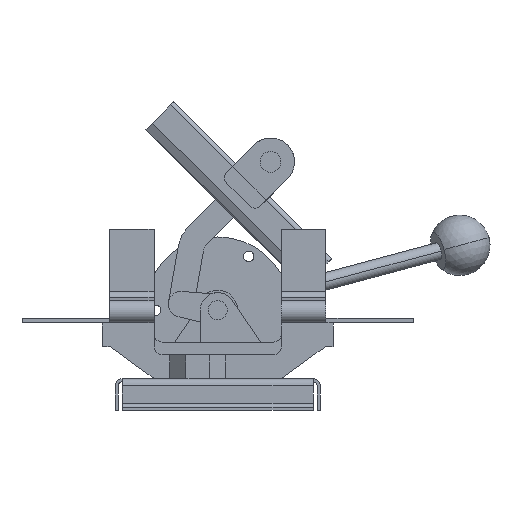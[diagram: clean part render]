
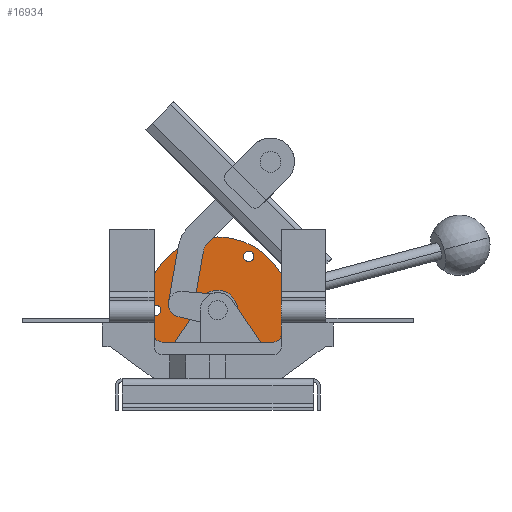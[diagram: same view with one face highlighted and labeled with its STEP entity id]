
A CAD part, left-side view. The second image highlights one B-rep face of the part: STEP entity #16934.
In plain terms, the highlighted planar face has unit normal (-1, 0, 0).
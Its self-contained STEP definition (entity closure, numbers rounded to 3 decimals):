
#261 = EDGE_CURVE ( 'NONE', #944, #12248, #17594, .T. ) ;
#311 = AXIS2_PLACEMENT_3D ( 'NONE', #5364, #17645, #9265 ) ;
#516 = AXIS2_PLACEMENT_3D ( 'NONE', #25674, #1445, #3598 ) ;
#648 = CIRCLE ( 'NONE', #20256, 3.25 ) ;
#944 = VERTEX_POINT ( 'NONE', #21422 ) ;
#1445 = DIRECTION ( 'NONE',  ( -1., 0., 0. ) ) ;
#1565 = CARTESIAN_POINT ( 'NONE',  ( 235., -19.5, -30.525 ) ) ;
#1932 = AXIS2_PLACEMENT_3D ( 'NONE', #10795, #22487, #10455 ) ;
#2048 = AXIS2_PLACEMENT_3D ( 'NONE', #7802, #15551, #21603 ) ;
#2337 = VERTEX_POINT ( 'NONE', #22966 ) ;
#2665 = AXIS2_PLACEMENT_3D ( 'NONE', #12274, #8149, #16349 ) ;
#3085 = CARTESIAN_POINT ( 'NONE',  ( 235., -19.5, 37.025 ) ) ;
#3220 = EDGE_CURVE ( 'NONE', #24512, #10408, #7023, .T. ) ;
#3518 = EDGE_LOOP ( 'NONE', ( #5902, #22399 ) ) ;
#3524 = CIRCLE ( 'NONE', #311, 3.25 ) ;
#3598 = DIRECTION ( 'NONE',  ( 0., 0., -1. ) ) ;
#5364 = CARTESIAN_POINT ( 'NONE',  ( 235., -19.5, -33.775 ) ) ;
#5779 = ORIENTED_EDGE ( 'NONE', *, *, #22396, .F. ) ;
#5902 = ORIENTED_EDGE ( 'NONE', *, *, #23578, .T. ) ;
#6448 = CARTESIAN_POINT ( 'NONE',  ( 235., 39., 0. ) ) ;
#6724 = CIRCLE ( 'NONE', #9838, 46. ) ;
#6726 = FACE_BOUND ( 'NONE', #11632, .T. ) ;
#7023 = CIRCLE ( 'NONE', #11259, 46. ) ;
#7089 = VERTEX_POINT ( 'NONE', #18609 ) ;
#7265 = CARTESIAN_POINT ( 'NONE',  ( 235., 0., 0. ) ) ;
#7499 = ORIENTED_EDGE ( 'NONE', *, *, #3220, .F. ) ;
#7802 = CARTESIAN_POINT ( 'NONE',  ( 235., 0., 0. ) ) ;
#8149 = DIRECTION ( 'NONE',  ( 1., 0., 0. ) ) ;
#8260 = ORIENTED_EDGE ( 'NONE', *, *, #13002, .F. ) ;
#8605 = VERTEX_POINT ( 'NONE', #12955 ) ;
#8611 = CIRCLE ( 'NONE', #516, 3.25 ) ;
#9265 = DIRECTION ( 'NONE',  ( 0., 0., -1. ) ) ;
#9319 = DIRECTION ( 'NONE',  ( 1., 0., 0. ) ) ;
#9510 = DIRECTION ( 'NONE',  ( 0., 0., -1. ) ) ;
#9838 = AXIS2_PLACEMENT_3D ( 'NONE', #25457, #11416, #9510 ) ;
#10118 = ORIENTED_EDGE ( 'NONE', *, *, #14661, .F. ) ;
#10408 = VERTEX_POINT ( 'NONE', #11257 ) ;
#10455 = DIRECTION ( 'NONE',  ( 0., 0., -1. ) ) ;
#10704 = DIRECTION ( 'NONE',  ( -1., 0., 0. ) ) ;
#10789 = DIRECTION ( 'NONE',  ( -1., 0., 0. ) ) ;
#10795 = CARTESIAN_POINT ( 'NONE',  ( 235., -19.5, -33.775 ) ) ;
#11046 = AXIS2_PLACEMENT_3D ( 'NONE', #6448, #10704, #14734 ) ;
#11257 = CARTESIAN_POINT ( 'NONE',  ( 235., 0., -46. ) ) ;
#11259 = AXIS2_PLACEMENT_3D ( 'NONE', #7265, #9319, #25275 ) ;
#11416 = DIRECTION ( 'NONE',  ( 1., 0., 0. ) ) ;
#11632 = EDGE_LOOP ( 'NONE', ( #18755, #5779 ) ) ;
#11699 = DIRECTION ( 'NONE',  ( -1., 0., 0. ) ) ;
#12095 = PLANE ( 'NONE',  #2665 ) ;
#12248 = VERTEX_POINT ( 'NONE', #24266 ) ;
#12274 = CARTESIAN_POINT ( 'NONE',  ( 235., 0., 0. ) ) ;
#12414 = CIRCLE ( 'NONE', #2048, 12.5 ) ;
#12625 = VERTEX_POINT ( 'NONE', #1565 ) ;
#12955 = CARTESIAN_POINT ( 'NONE',  ( 235., -19.5, 30.525 ) ) ;
#13002 = EDGE_CURVE ( 'NONE', #25510, #12625, #23442, .T. ) ;
#13541 = CIRCLE ( 'NONE', #11046, 3.25 ) ;
#14007 = FACE_OUTER_BOUND ( 'NONE', #20485, .T. ) ;
#14375 = ORIENTED_EDGE ( 'NONE', *, *, #17463, .F. ) ;
#14661 = EDGE_CURVE ( 'NONE', #10408, #24512, #6724, .T. ) ;
#14734 = DIRECTION ( 'NONE',  ( 0., 0., -1. ) ) ;
#15261 = FACE_BOUND ( 'NONE', #22373, .T. ) ;
#15506 = CARTESIAN_POINT ( 'NONE',  ( 235., 0., 46. ) ) ;
#15551 = DIRECTION ( 'NONE',  ( 1., 0., 0. ) ) ;
#15952 = CARTESIAN_POINT ( 'NONE',  ( 235., -19.5, 33.775 ) ) ;
#16349 = DIRECTION ( 'NONE',  ( 0., 0., -1. ) ) ;
#16350 = DIRECTION ( 'NONE',  ( 1., 0., 0. ) ) ;
#16608 = ORIENTED_EDGE ( 'NONE', *, *, #17335, .F. ) ;
#16934 = ADVANCED_FACE ( 'NONE', ( #20603, #6726, #15261, #24672, #14007 ), #12095, .F. ) ;
#17335 = EDGE_CURVE ( 'NONE', #12625, #25510, #3524, .T. ) ;
#17463 = EDGE_CURVE ( 'NONE', #20137, #8605, #648, .T. ) ;
#17594 = CIRCLE ( 'NONE', #21351, 12.5 ) ;
#17645 = DIRECTION ( 'NONE',  ( -1., 0., 0. ) ) ;
#17991 = ORIENTED_EDGE ( 'NONE', *, *, #23959, .F. ) ;
#18275 = CARTESIAN_POINT ( 'NONE',  ( 235., 0., 0. ) ) ;
#18440 = DIRECTION ( 'NONE',  ( 0., 0., -1. ) ) ;
#18556 = EDGE_LOOP ( 'NONE', ( #17991, #14375 ) ) ;
#18609 = CARTESIAN_POINT ( 'NONE',  ( 235., 39., -3.25 ) ) ;
#18755 = ORIENTED_EDGE ( 'NONE', *, *, #25248, .F. ) ;
#19051 = CARTESIAN_POINT ( 'NONE',  ( 235., -19.5, 33.775 ) ) ;
#19904 = DIRECTION ( 'NONE',  ( 0., 0., -1. ) ) ;
#19943 = CIRCLE ( 'NONE', #24624, 3.25 ) ;
#20137 = VERTEX_POINT ( 'NONE', #3085 ) ;
#20256 = AXIS2_PLACEMENT_3D ( 'NONE', #15952, #11699, #19904 ) ;
#20485 = EDGE_LOOP ( 'NONE', ( #10118, #7499 ) ) ;
#20603 = FACE_BOUND ( 'NONE', #18556, .T. ) ;
#21351 = AXIS2_PLACEMENT_3D ( 'NONE', #18275, #16350, #18440 ) ;
#21422 = CARTESIAN_POINT ( 'NONE',  ( 235., 0., -12.5 ) ) ;
#21603 = DIRECTION ( 'NONE',  ( 0., 0., -1. ) ) ;
#22373 = EDGE_LOOP ( 'NONE', ( #8260, #16608 ) ) ;
#22396 = EDGE_CURVE ( 'NONE', #2337, #7089, #8611, .T. ) ;
#22399 = ORIENTED_EDGE ( 'NONE', *, *, #261, .T. ) ;
#22487 = DIRECTION ( 'NONE',  ( -1., 0., 0. ) ) ;
#22966 = CARTESIAN_POINT ( 'NONE',  ( 235., 39., 3.25 ) ) ;
#23442 = CIRCLE ( 'NONE', #1932, 3.25 ) ;
#23578 = EDGE_CURVE ( 'NONE', #12248, #944, #12414, .T. ) ;
#23959 = EDGE_CURVE ( 'NONE', #8605, #20137, #19943, .T. ) ;
#24266 = CARTESIAN_POINT ( 'NONE',  ( 235., 0., 12.5 ) ) ;
#24512 = VERTEX_POINT ( 'NONE', #15506 ) ;
#24624 = AXIS2_PLACEMENT_3D ( 'NONE', #19051, #10789, #24825 ) ;
#24672 = FACE_BOUND ( 'NONE', #3518, .T. ) ;
#24825 = DIRECTION ( 'NONE',  ( 0., 0., -1. ) ) ;
#24981 = CARTESIAN_POINT ( 'NONE',  ( 235., -19.5, -37.025 ) ) ;
#25248 = EDGE_CURVE ( 'NONE', #7089, #2337, #13541, .T. ) ;
#25275 = DIRECTION ( 'NONE',  ( 0., 0., -1. ) ) ;
#25457 = CARTESIAN_POINT ( 'NONE',  ( 235., 0., 0. ) ) ;
#25510 = VERTEX_POINT ( 'NONE', #24981 ) ;
#25674 = CARTESIAN_POINT ( 'NONE',  ( 235., 39., 0. ) ) ;
